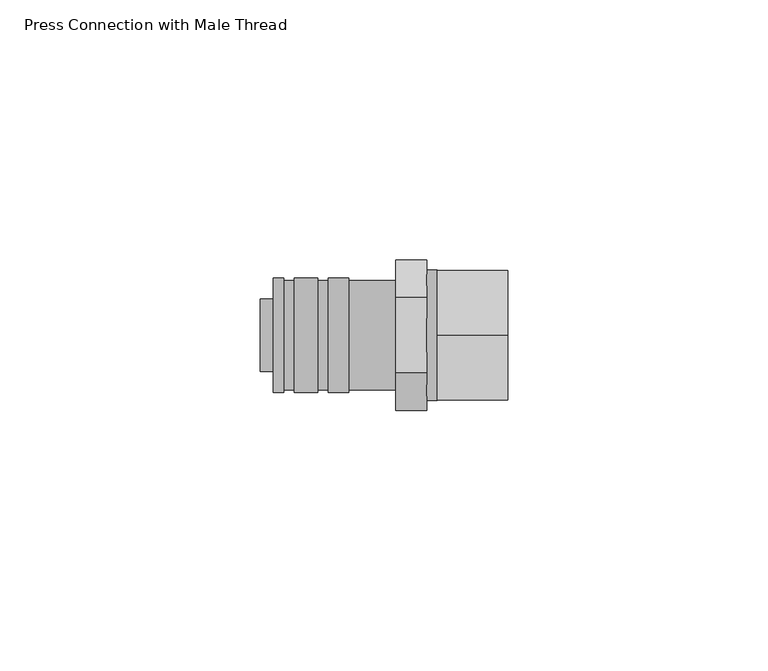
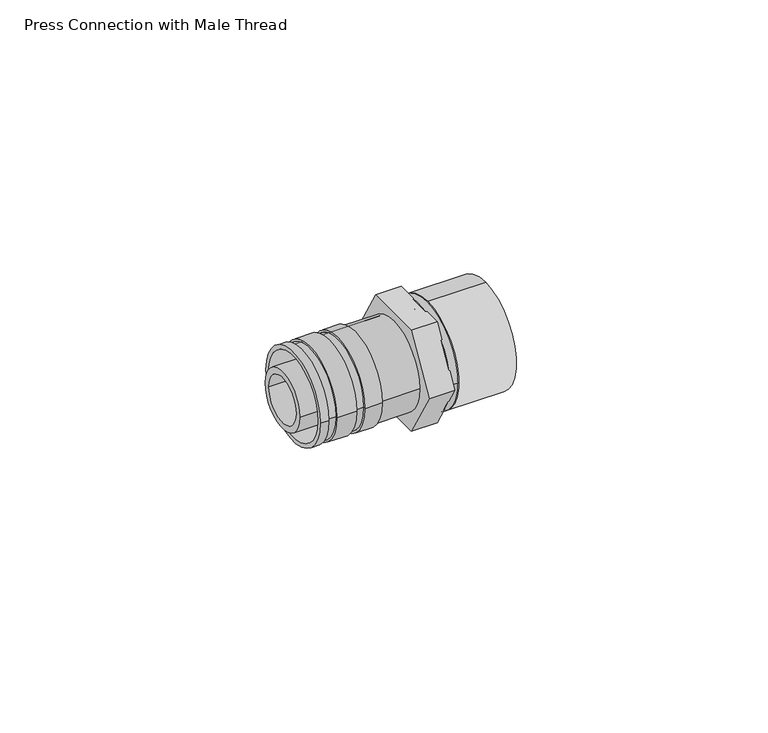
"""IFC4 building model written with IfcOpenShell, lengths in millimetres: pipe fitting geometry, Press Connection with Male Thread : Superpipe Press Connection - 20x¾” MT."""

from ifc_helpers import new_model, si_unit, point, frame, origin, origin_2d, place, context, project, spatial, polyline, circle_curve, trimmed, segment, composite_curve, outline, extrude, source, transform, mapped, element, save
from ifc_brep_helpers import plane_surface, cylinder_surface, revolved_surface, advanced_brep


def press_connection_with_male_thread_5719c467(model_context):
    return source(origin(), model_context, "Body", "SolidModel", [
        extrude(outline(composite_curve([segment(trimmed(circle_curve(origin_2d(), 12.5), [point((0.0, -12.5))], [point((0.0, 12.5))], False, "CARTESIAN"), True, "CONTINUOUS"), segment(trimmed(circle_curve(origin_2d(), 12.5), [point((0.0, 12.5))], [point((0.0, -12.5))], False, "CARTESIAN"), True, "CONTINUOUS")], self_intersect=False), holes=[composite_curve([segment(trimmed(circle_curve(origin_2d(), 9.0), [point((0.0, -9.0))], [point((0.0, 9.0))], True, "CARTESIAN"), True, "CONTINUOUS"), segment(trimmed(circle_curve(origin_2d(), 9.0), [point((0.0, 9.0))], [point((0.0, -9.0))], True, "CARTESIAN"), True, "CONTINUOUS")], self_intersect=False)]), frame((34.0, 0.0, 0.0), z_axis=(1.0, 0.0, 0.0), x_axis=(0.0, 1.0, 0.0)), (0.0, 0.0, 1.0), 13.5),
        advanced_brep(
        [(2.5, 11.0, 0.0), (2.5, -11.0, 0.0), (2.5, 10.0, 0.0), (2.5, -10.0, 0.0), (26.0, -10.5, 0.0), (26.0, 10.5, 0.0), (26.0, 10.0, 0.0), (26.0, -10.0, 0.0), (4.5, 11.0, 0.0), (4.5, -11.0, 0.0), (17.0, 11.0, 0.0), (17.0, -11.0, 0.0), (13.0, -11.0, 0.0), (13.0, 11.0, 0.0), (11.0, 11.0, 0.0), (11.0, -11.0, 0.0), (6.5, -11.0, 0.0), (6.5, 11.0, 0.0), (17.0, 10.5, 0.0), (17.0, -10.5, 0.0), (13.0, -10.5, 0.0), (13.0, 10.5, 0.0), (11.0, 10.5, 0.0), (11.0, -10.5, 0.0), (6.5, -10.5, 0.0), (6.5, 10.5, 0.0), (4.5, 10.5, 0.0), (4.5, -10.5, 0.0)],
        [
            (0, 1, circle_curve(frame((2.5, 0.0, 0.0), z_axis=(-1.0, 0.0, 0.0), x_axis=(0.0, -1.0, 0.0)), 11.0)),
            (1, 0, circle_curve(frame((2.5, 0.0, 0.0), z_axis=(-1.0, 0.0, 0.0), x_axis=(0.0, -1.0, 0.0)), 11.0)),
            (2, 3, circle_curve(frame((2.5, 0.0, 0.0), z_axis=(1.0, 0.0, 0.0), x_axis=(0.0, -1.0, 0.0)), 10.0)),
            (3, 2, circle_curve(frame((2.5, 0.0, 0.0), z_axis=(1.0, 0.0, 0.0), x_axis=(0.0, -1.0, 0.0)), 10.0)),
            (4, 5, circle_curve(frame((26.0, 0.0, 0.0), z_axis=(1.0, 0.0, 0.0), x_axis=(0.0, 1.0, 0.0)), 10.5)),
            (5, 4, circle_curve(frame((26.0, 0.0, 0.0), z_axis=(1.0, 0.0, 0.0), x_axis=(0.0, 1.0, 0.0)), 10.5)),
            (6, 7, circle_curve(frame((26.0, 0.0, 0.0), z_axis=(-1.0, 0.0, 0.0), x_axis=(0.0, -1.0, 0.0)), 10.0)),
            (7, 6, circle_curve(frame((26.0, 0.0, 0.0), z_axis=(-1.0, 0.0, 0.0), x_axis=(0.0, -1.0, 0.0)), 10.0)),
            (0, 8),
            (8, 9, circle_curve(frame((4.5, 0.0, 0.0), z_axis=(-1.0, 0.0, 0.0), x_axis=(0.0, -1.0, 0.0)), 11.0)),
            (9, 1),
            (10, 11, circle_curve(frame((17.0, 0.0, 0.0), z_axis=(-1.0, 0.0, 0.0), x_axis=(0.0, -1.0, 0.0)), 11.0)),
            (11, 12),
            (12, 13, circle_curve(frame((13.0, 0.0, 0.0), z_axis=(1.0, 0.0, 0.0), x_axis=(0.0, -1.0, 0.0)), 11.0)),
            (13, 10),
            (14, 15, circle_curve(frame((11.0, 0.0, 0.0), z_axis=(-1.0, 0.0, 0.0), x_axis=(0.0, -1.0, 0.0)), 11.0)),
            (15, 16),
            (16, 17, circle_curve(frame((6.5, 0.0, 0.0), z_axis=(1.0, 0.0, 0.0), x_axis=(0.0, -1.0, 0.0)), 11.0)),
            (17, 14),
            (9, 8, circle_curve(frame((4.5, 0.0, 0.0), z_axis=(-1.0, 0.0, 0.0), x_axis=(0.0, -1.0, 0.0)), 11.0)),
            (11, 10, circle_curve(frame((17.0, 0.0, 0.0), z_axis=(-1.0, 0.0, 0.0), x_axis=(0.0, -1.0, 0.0)), 11.0)),
            (13, 12, circle_curve(frame((13.0, 0.0, 0.0), z_axis=(1.0, 0.0, 0.0), x_axis=(0.0, -1.0, 0.0)), 11.0)),
            (15, 14, circle_curve(frame((11.0, 0.0, 0.0), z_axis=(-1.0, 0.0, 0.0), x_axis=(0.0, -1.0, 0.0)), 11.0)),
            (17, 16, circle_curve(frame((6.5, 0.0, 0.0), z_axis=(1.0, 0.0, 0.0), x_axis=(0.0, -1.0, 0.0)), 11.0)),
            (2, 6),
            (7, 3),
            (18, 19, circle_curve(frame((17.0, 0.0, 0.0), z_axis=(-1.0, 0.0, 0.0), x_axis=(0.0, 1.0, 0.0)), 10.5)),
            (19, 11),
            (10, 18),
            (19, 18, circle_curve(frame((17.0, 0.0, 0.0), z_axis=(-1.0, 0.0, 0.0), x_axis=(0.0, 1.0, 0.0)), 10.5)),
            (18, 5),
            (4, 19),
            (20, 21, circle_curve(frame((13.0, 0.0, 0.0), z_axis=(1.0, 0.0, 0.0), x_axis=(0.0, 1.0, 0.0)), 10.5)),
            (21, 13),
            (12, 20),
            (21, 20, circle_curve(frame((13.0, 0.0, 0.0), z_axis=(1.0, 0.0, 0.0), x_axis=(0.0, 1.0, 0.0)), 10.5)),
            (22, 23, circle_curve(frame((11.0, 0.0, 0.0), z_axis=(-1.0, 0.0, 0.0), x_axis=(0.0, 1.0, 0.0)), 10.5)),
            (23, 15),
            (14, 22),
            (23, 22, circle_curve(frame((11.0, 0.0, 0.0), z_axis=(-1.0, 0.0, 0.0), x_axis=(0.0, 1.0, 0.0)), 10.5)),
            (20, 23),
            (22, 21),
            (24, 25, circle_curve(frame((6.5, 0.0, 0.0), z_axis=(1.0, 0.0, 0.0), x_axis=(0.0, 1.0, 0.0)), 10.5)),
            (25, 17),
            (16, 24),
            (25, 24, circle_curve(frame((6.5, 0.0, 0.0), z_axis=(1.0, 0.0, 0.0), x_axis=(0.0, 1.0, 0.0)), 10.5)),
            (26, 27, circle_curve(frame((4.5, 0.0, 0.0), z_axis=(-1.0, 0.0, 0.0), x_axis=(0.0, 1.0, 0.0)), 10.5)),
            (27, 9),
            (8, 26),
            (27, 26, circle_curve(frame((4.5, 0.0, 0.0), z_axis=(-1.0, 0.0, 0.0), x_axis=(0.0, 1.0, 0.0)), 10.5)),
            (24, 27),
            (26, 25),
        ],
        [
            plane_surface(frame((2.5, -11.0, 0.0), z_axis=(-1.0, 0.0, 0.0), x_axis=(0.0, 0.0, 1.0))),
            plane_surface(frame((26.0, -11.0, 0.0), z_axis=(1.0, 0.0, 0.0), x_axis=(0.0, 0.0, -1.0))),
            cylinder_surface(frame((26.0, 0.0, 0.0), z_axis=(-1.0, 0.0, 0.0), x_axis=(0.0, -1.0, 0.0)), 11.0),
            revolved_surface(polyline([(26.0, -10.0, 0.0), (2.5, -10.0, 0.0)]), (26.0, 0.0, 0.0), (1.0, 0.0, 0.0)),
            plane_surface(frame((17.0, 0.0, 0.0), z_axis=(1.0, 0.0, 0.0), x_axis=(0.0, 1.0, 0.0))),
            cylinder_surface(frame((1985.5, 0.0, 0.0), z_axis=(-1.0, 0.0, 0.0), x_axis=(0.0, 1.0, 0.0)), 10.5),
            plane_surface(frame((13.0, 0.0, 0.0), z_axis=(-1.0, 0.0, 0.0), x_axis=(0.0, 1.0, 0.0))),
            plane_surface(frame((11.0, 0.0, 0.0), z_axis=(1.0, 0.0, 0.0), x_axis=(0.0, 1.0, 0.0))),
            plane_surface(frame((6.5, 0.0, 0.0), z_axis=(-1.0, 0.0, 0.0), x_axis=(0.0, 1.0, 0.0))),
            plane_surface(frame((4.5, 0.0, 0.0), z_axis=(1.0, 0.0, 0.0), x_axis=(0.0, 1.0, 0.0))),
        ],
        [
            (0, [[1, 2], [3, 4]]),
            (1, [[5, 6], [7, 8]]),
            (2, [[-1, 9, 10, 11]]),
            (2, [[12, 13, 14, 15]]),
            (2, [[16, 17, 18, 19]]),
            (2, [[-2, -11, 20, -9]]),
            (2, [[21, -15, 22, -13]]),
            (2, [[23, -19, 24, -17]]),
            (3, [[-3, 25, -8, 26]]),
            (3, [[-4, -26, -7, -25]]),
            (4, [[27, 28, -12, 29]]),
            (4, [[30, -29, -21, -28]]),
            (5, [[-27, 31, -5, 32]]),
            (5, [[-30, -32, -6, -31]]),
            (6, [[33, 34, -14, 35]]),
            (6, [[36, -35, -22, -34]]),
            (7, [[37, 38, -16, 39]]),
            (7, [[40, -39, -23, -38]]),
            (5, [[-33, 41, -37, 42]]),
            (5, [[-36, -42, -40, -41]]),
            (8, [[43, 44, -18, 45]]),
            (8, [[46, -45, -24, -44]]),
            (9, [[47, 48, -10, 49]]),
            (9, [[50, -49, -20, -48]]),
            (5, [[-43, 51, -47, 52]]),
            (5, [[-46, -52, -50, -51]]),
        ],
    ),
        extrude(outline(composite_curve([segment(trimmed(circle_curve(origin_2d(), 12.5), [point((-12.5, 0.0))], [point((12.5, 0.0))], False, "CARTESIAN"), True, "CONTINUOUS"), segment(trimmed(circle_curve(origin_2d(), 12.5), [point((12.5, 0.0))], [point((-12.5, 0.0))], False, "CARTESIAN"), True, "CONTINUOUS")], self_intersect=False), holes=[composite_curve([segment(trimmed(circle_curve(origin_2d(), 9.0), [point((-9.0, 0.0))], [point((9.0, 0.0))], True, "CARTESIAN"), True, "CONTINUOUS"), segment(trimmed(circle_curve(origin_2d(), 9.0), [point((9.0, 0.0))], [point((-9.0, 0.0))], True, "CARTESIAN"), True, "CONTINUOUS")], self_intersect=False)]), frame((32.0, 0.0, 0.0), z_axis=(1.0, 0.0, 0.0), x_axis=(0.0, 1.0, 0.0)), (0.0, 0.0, 1.0), 2.0),
        extrude(outline(polyline([(-14.4337567, 0.0), (-7.2168784, 12.5), (7.2168784, 12.5), (14.4337567, 0.0), (7.2168784, -12.5), (-7.2168784, -12.5), (-14.4337567, 0.0)]), holes=[composite_curve([segment(trimmed(circle_curve(origin_2d(), 5.5), [point((5.5, 0.0))], [point((-5.5, 0.0))], True, "CARTESIAN"), True, "CONTINUOUS"), segment(trimmed(circle_curve(origin_2d(), 5.5), [point((-5.5, 0.0))], [point((5.5, 0.0))], True, "CARTESIAN"), True, "CONTINUOUS")], self_intersect=False)]), frame((26.0, 0.0, 0.0), z_axis=(1.0, 0.0, 0.0), x_axis=(0.0, 1.0, 0.0)), (0.0, 0.0, 1.0), 6.0),
        extrude(outline(composite_curve([segment(trimmed(circle_curve(origin_2d(), 7.0), [point((-7.0, 0.0))], [point((7.0, 0.0))], False, "CARTESIAN"), True, "CONTINUOUS"), segment(trimmed(circle_curve(origin_2d(), 7.0), [point((7.0, 0.0))], [point((-7.0, 0.0))], False, "CARTESIAN"), True, "CONTINUOUS")], self_intersect=False), holes=[composite_curve([segment(trimmed(circle_curve(origin_2d(), 5.5), [point((5.5, 0.0))], [point((-5.5, 0.0))], True, "CARTESIAN"), True, "CONTINUOUS"), segment(trimmed(circle_curve(origin_2d(), 5.5), [point((-5.5, 0.0))], [point((5.5, 0.0))], True, "CARTESIAN"), True, "CONTINUOUS")], self_intersect=False)]), frame((0.0, 0.0, 0.0), z_axis=(1.0, 0.0, 0.0), x_axis=(0.0, 1.0, 0.0)), (0.0, 0.0, 1.0), 26.0),
    ])


if __name__ == "__main__":
    model = new_model("IFC4")
    model_context = context("Model", 3, world=origin())
    ifc_project = project(units=[si_unit("LENGTHUNIT", "METRE", prefix="MILLI")], contexts=[model_context])
    site = spatial("IfcSite", under=ifc_project)
    building = spatial("IfcBuilding", under=site)
    placement = place(None, origin())
    press_connection_with_male_thread_shape = press_connection_with_male_thread_5719c467(model_context)
    element("IfcPipeFitting", 1, ObjectType="Press Connection with Male Thread : Superpipe Press Connection - 20x¾” MT", at=placement, inside=building, context=model_context, shape_type="MappedRepresentation", body=[
        mapped(press_connection_with_male_thread_shape, transform((0.0, 0.0, 0.0), x_axis=(1.0, 0.0, 0.0), y_axis=(0.0, 1.0, 0.0), z_axis=(0.0, 0.0, 1.0))),
    ])
    save(model, "model.ifc")
